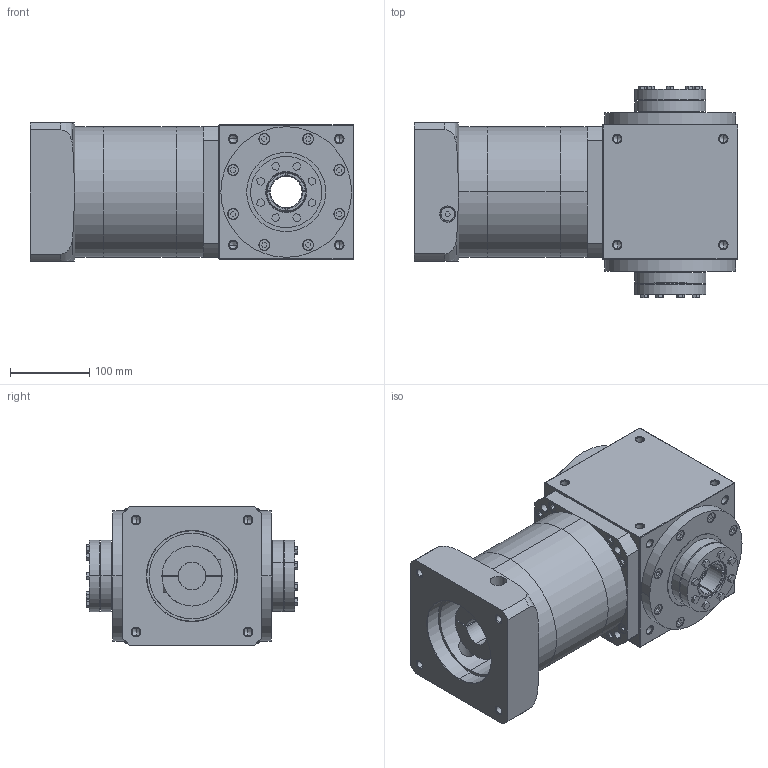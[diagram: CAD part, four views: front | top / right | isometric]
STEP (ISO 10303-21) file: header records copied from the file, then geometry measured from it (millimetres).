
FILE_DESCRIPTION (( 'STEP AP203' ), '1' );
FILE_NAME ('AT170-FC-L3-35-114.3-200.STEP', '2026-01-14T09:13:28', ( 'Windows User' ), ( 'P R C' ), 'SwSTEP 2.0', 'SolidWorks 2016', '' );
FILE_SCHEMA (( 'CONFIG_CONTROL_DESIGN' ));
Length unit declared in the file: millimetre
Products named in the file (6): AT170蛌褒眊极-謂怀堤-FC; AT170-蛌倰怀堤楊擘; AT170内齿圈108-2; AT170输入法兰-A-35-80-114.3-M12-200; AT170坶踡攫; AT170-FC-L3-35-114.3-200
Assembly tree (6 placements, depth 2):
  AT170-FC-L3-35-114.3-200
    AT170坶踡攫  x2
    AT170蛌褒眊极-謂怀堤-FC
    AT170-蛌倰怀堤楊擘
    AT170内齿圈108-2
    AT170输入法兰-A-35-80-114.3-M12-200
Bounding box: 408 x 267 x 175 mm (x, y, z)
Volume: 8861806.9 mm3; surface area: 807198.7 mm2
Topology: 6 solids, 22 shells, 1930 faces, 4889 edges, 3098 vertices
Faces by surface type: plane 963, cylinder 493, cone 294, bspline 180
Entity records: 62271 total; most frequent: CARTESIAN_POINT 20006, ORIENTED_EDGE 8874, DIRECTION 8021, EDGE_CURVE 4437, VERTEX_POINT 2878, LINE 2823, VECTOR 2823, AXIS2_PLACEMENT_3D 2599
